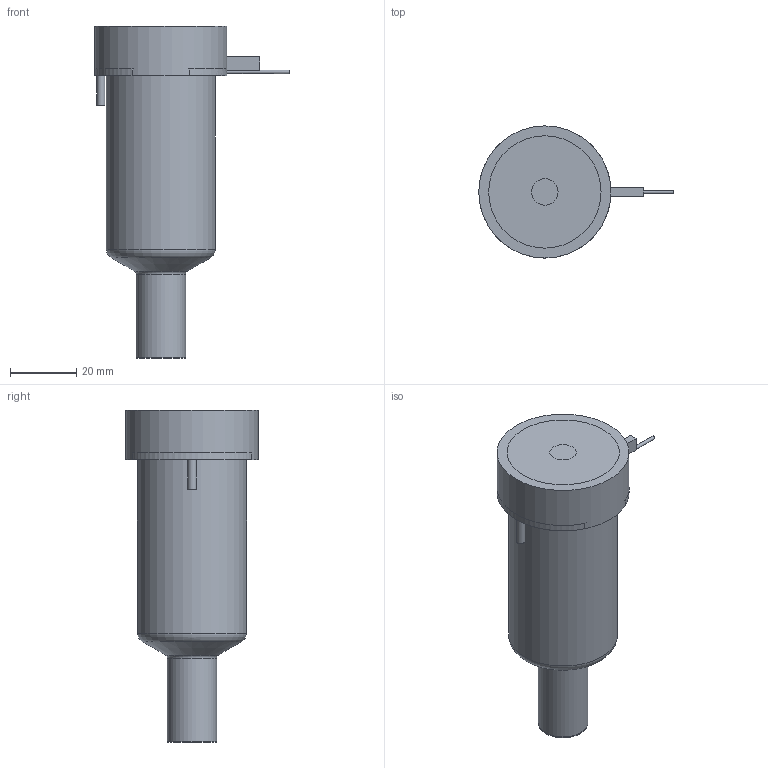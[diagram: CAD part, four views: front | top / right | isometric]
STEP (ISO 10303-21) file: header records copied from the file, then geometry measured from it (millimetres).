
FILE_DESCRIPTION(/* description */ (''),/* implementation_level */ '2;1');
FILE_NAME(/* name */ 'BXYCN19065P4U_250C_a',/* time_stamp */ '2016-02-23T09:32:41+13:00',/* author */ (''),/* organization */ (''),/* preprocessor_version */ 'ST-DEVELOPER v9',/* originating_system */ 'UGS - NX 4.0',/* authorisation */ '');
FILE_SCHEMA (('CONFIG_CONTROL_DESIGN'));
Length unit declared in the file: millimetre
Products named in the file (1): matt48E8yt9b
Bounding box: 58.85 x 40 x 100.5 mm (x, y, z)
Volume: 127501.3 mm3; surface area: 23139.5 mm2
Topology: 2 solids, 2 shells, 66 faces, 148 edges, 96 vertices
Faces by surface type: plane 31, cylinder 21, torus 7, cone 5, bspline 1, sphere 1
Full cylindrical faces by diameter (mm): 1 x2, 2 x1, 2.5 x1, 7 x1, 8 x1, 14.61 x1, 14.995 x2, 18.3 x1, 28.6 x1, 33 x1, 40 x1
Entity records: 1929 total; most frequent: CARTESIAN_POINT 483, DIRECTION 297, ORIENTED_EDGE 232, AXIS2_PLACEMENT_3D 127, EDGE_CURVE 116, EDGE_LOOP 102, VERTEX_POINT 88, ADVANCED_FACE 66
